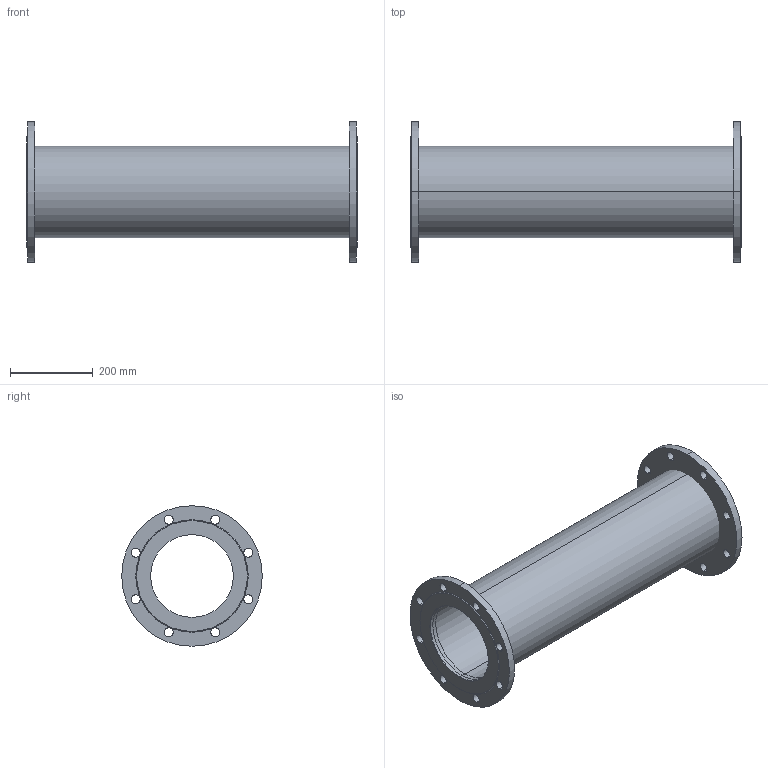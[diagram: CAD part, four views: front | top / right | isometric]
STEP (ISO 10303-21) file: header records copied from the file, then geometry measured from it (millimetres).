
FILE_DESCRIPTION(('STEP AP214'),'1');
FILE_NAME('U:/VDI-Daten/8500/8500_PN10_L800_DN200.STP','2012-06-12T13:57:54',(' '),(' '),'Spatial InterOp 3D',' ',' ');
FILE_SCHEMA(('automotive_design'));
Length unit declared in the file: millimetre
Products named in the file (5): 3D-Objekt
Bounding box: 800 x 340 x 340 mm (x, y, z)
Volume: 7818900.5 mm3; surface area: 1465670.3 mm2
Topology: 5 solids, 5 shells, 62 faces, 156 edges, 104 vertices
Faces by surface type: cylinder 48, plane 10, cone 4
Entity records: 2621 total; most frequent: DIRECTION 394, CARTESIAN_POINT 327, ORIENTED_EDGE 312, AXIS2_PLACEMENT_3D 171, EDGE_CURVE 156, EDGE_LOOP 104, VERTEX_POINT 104, CIRCLE 104
